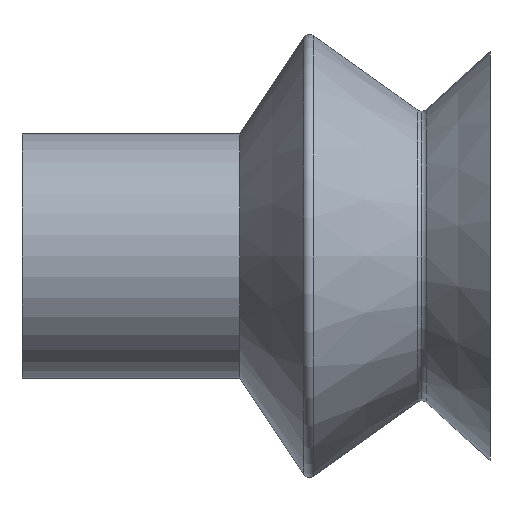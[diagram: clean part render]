
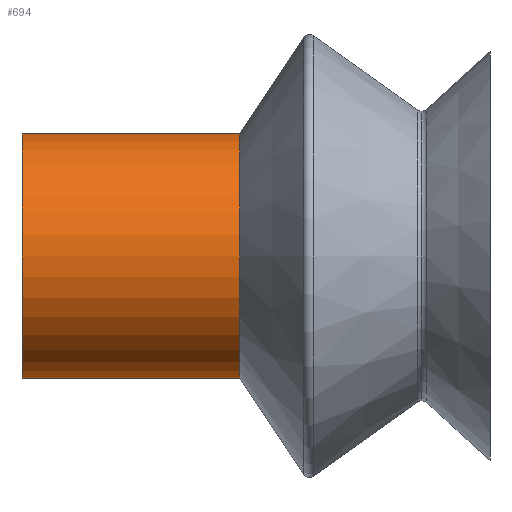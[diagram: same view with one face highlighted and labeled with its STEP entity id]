
A CAD part, left-side view. The second image highlights one B-rep face of the part: STEP entity #694.
In plain terms, the highlighted cylindrical face has radius 4.5 mm (diameter 9 mm), a partial arc.
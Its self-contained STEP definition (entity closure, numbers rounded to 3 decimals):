
#14 = EDGE_CURVE ( 'NONE', #323, #24, #121, .T. ) ;
#24 = VERTEX_POINT ( 'NONE', #815 ) ;
#30 = DIRECTION ( 'NONE',  ( 0., 0., -1. ) ) ;
#35 = CYLINDRICAL_SURFACE ( 'NONE', #822, 4.5 ) ;
#38 = LINE ( 'NONE', #431, #556 ) ;
#77 = VECTOR ( 'NONE', #792, 1000. ) ;
#121 = CIRCLE ( 'NONE', #709, 4.5 ) ;
#174 = DIRECTION ( 'NONE',  ( 0., -1., 0. ) ) ;
#176 = DIRECTION ( 'NONE',  ( 0., -1., 0. ) ) ;
#177 = LINE ( 'NONE', #856, #77 ) ;
#180 = CARTESIAN_POINT ( 'NONE',  ( 0., 17.2, -4.5 ) ) ;
#199 = ORIENTED_EDGE ( 'NONE', *, *, #809, .T. ) ;
#240 = VERTEX_POINT ( 'NONE', #180 ) ;
#273 = EDGE_CURVE ( 'NONE', #655, #323, #38, .T. ) ;
#284 = CARTESIAN_POINT ( 'NONE',  ( 0., 0., 0. ) ) ;
#323 = VERTEX_POINT ( 'NONE', #750 ) ;
#363 = DIRECTION ( 'NONE',  ( 0., -1., 0. ) ) ;
#367 = CARTESIAN_POINT ( 'NONE',  ( 0., 9.2, 0. ) ) ;
#372 = FACE_OUTER_BOUND ( 'NONE', #824, .T. ) ;
#382 = CARTESIAN_POINT ( 'NONE',  ( 0., 17.2, 0. ) ) ;
#412 = CIRCLE ( 'NONE', #549, 4.5 ) ;
#423 = ORIENTED_EDGE ( 'NONE', *, *, #273, .F. ) ;
#431 = CARTESIAN_POINT ( 'NONE',  ( 0., 0., 4.5 ) ) ;
#486 = CARTESIAN_POINT ( 'NONE',  ( 0., 17.2, 4.5 ) ) ;
#549 = AXIS2_PLACEMENT_3D ( 'NONE', #382, #833, #638 ) ;
#556 = VECTOR ( 'NONE', #176, 1000. ) ;
#638 = DIRECTION ( 'NONE',  ( 0., 0., -1. ) ) ;
#649 = EDGE_CURVE ( 'NONE', #240, #24, #177, .T. ) ;
#655 = VERTEX_POINT ( 'NONE', #486 ) ;
#685 = DIRECTION ( 'NONE',  ( 0., 0., -1. ) ) ;
#694 = ADVANCED_FACE ( 'NONE', ( #372 ), #35, .T. ) ;
#709 = AXIS2_PLACEMENT_3D ( 'NONE', #367, #363, #30 ) ;
#732 = ORIENTED_EDGE ( 'NONE', *, *, #649, .T. ) ;
#750 = CARTESIAN_POINT ( 'NONE',  ( 0., 9.2, 4.5 ) ) ;
#792 = DIRECTION ( 'NONE',  ( 0., -1., 0. ) ) ;
#809 = EDGE_CURVE ( 'NONE', #655, #240, #412, .T. ) ;
#815 = CARTESIAN_POINT ( 'NONE',  ( 0., 9.2, -4.5 ) ) ;
#822 = AXIS2_PLACEMENT_3D ( 'NONE', #284, #174, #685 ) ;
#824 = EDGE_LOOP ( 'NONE', ( #423, #199, #732, #840 ) ) ;
#833 = DIRECTION ( 'NONE',  ( 0., -1., 0. ) ) ;
#840 = ORIENTED_EDGE ( 'NONE', *, *, #14, .F. ) ;
#856 = CARTESIAN_POINT ( 'NONE',  ( 0., 0., -4.5 ) ) ;
